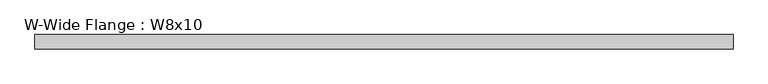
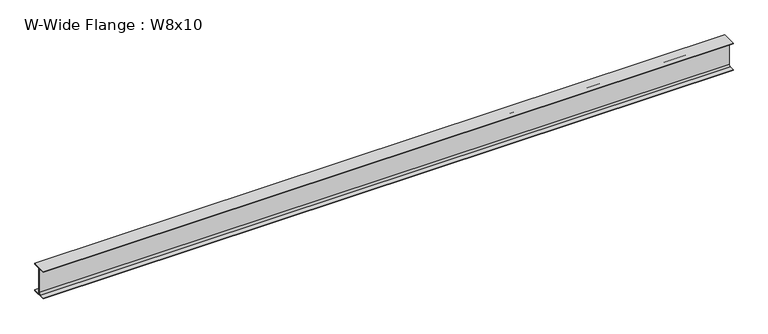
"""IFC4 building model written with IfcOpenShell, lengths in millimetres: beam geometry, W-Wide Flange : W8x10."""

from ifc_helpers import new_model, si_unit, point, frame, frame_2d, origin, place, context, project, spatial, polyline, circle_curve, trimmed, segment, composite_curve, outline, extrude, source, transform, mapped, element, save


def w_wide_flange_w8x10_8f1412b7(model_context):
    return source(origin(), model_context, "Body", "SweptSolid", [
        extrude(outline(composite_curve([segment(polyline([(50.038, -94.996), (50.038, -100.203), (-50.038, -100.203), (-50.038, -94.996), (-14.4145, -94.996)]), True, "CONTINUOUS"), segment(trimmed(circle_curve(frame_2d((-14.4145, -82.7405)), 12.2555), [point((-14.4145, -94.996))], [point((-2.159, -82.7405))], True, "CARTESIAN"), True, "CONTINUOUS"), segment(polyline([(-2.159, -82.7405), (-2.159, 82.7405)]), True, "CONTINUOUS"), segment(trimmed(circle_curve(frame_2d((-14.4145, 82.7405)), 12.2555), [point((-2.159, 82.7405))], [point((-14.4145, 94.996))], True, "CARTESIAN"), True, "CONTINUOUS"), segment(polyline([(-14.4145, 94.996), (-50.038, 94.996), (-50.038, 100.203), (50.038, 100.203), (50.038, 94.996), (14.4145, 94.996)]), True, "CONTINUOUS"), segment(trimmed(circle_curve(frame_2d((14.4145, 82.7405)), 12.2555), [point((14.4145, 94.996))], [point((2.159, 82.7405))], True, "CARTESIAN"), True, "CONTINUOUS"), segment(polyline([(2.159, 82.7405), (2.159, -82.7405)]), True, "CONTINUOUS"), segment(trimmed(circle_curve(frame_2d((14.4145, -82.7405)), 12.2555), [point((2.159, -82.7405))], [point((14.4145, -94.996))], True, "CARTESIAN"), True, "CONTINUOUS"), segment(polyline([(14.4145, -94.996), (50.038, -94.996)]), True, "CONTINUOUS")], self_intersect=False)), frame((-2495.423, 0.0, 0.0), z_axis=(1.0, 0.0, 0.0), x_axis=(0.0, 1.0, 0.0)), (0.0, 0.0, 1.0), 4813.3),
    ])


if __name__ == "__main__":
    model = new_model("IFC4")
    model_context = context("Model", 3, world=origin())
    ifc_project = project(units=[si_unit("LENGTHUNIT", "METRE", prefix="MILLI")], contexts=[model_context])
    site = spatial("IfcSite", under=ifc_project)
    building = spatial("IfcBuilding", under=site)
    placement = place(None, origin())
    w_wide_flange_w8x10_shape = w_wide_flange_w8x10_8f1412b7(model_context)
    element("IfcBeam", 1, ObjectType="W-Wide Flange : W8x10", at=placement, inside=building, context=model_context, shape_type="MappedRepresentation", body=[
        mapped(w_wide_flange_w8x10_shape, transform((0.0, 0.0, 0.0), x_axis=(1.0, 0.0, 0.0), y_axis=(0.0, 1.0, 0.0), z_axis=(0.0, 0.0, 1.0))),
    ])
    save(model, "model.ifc")
